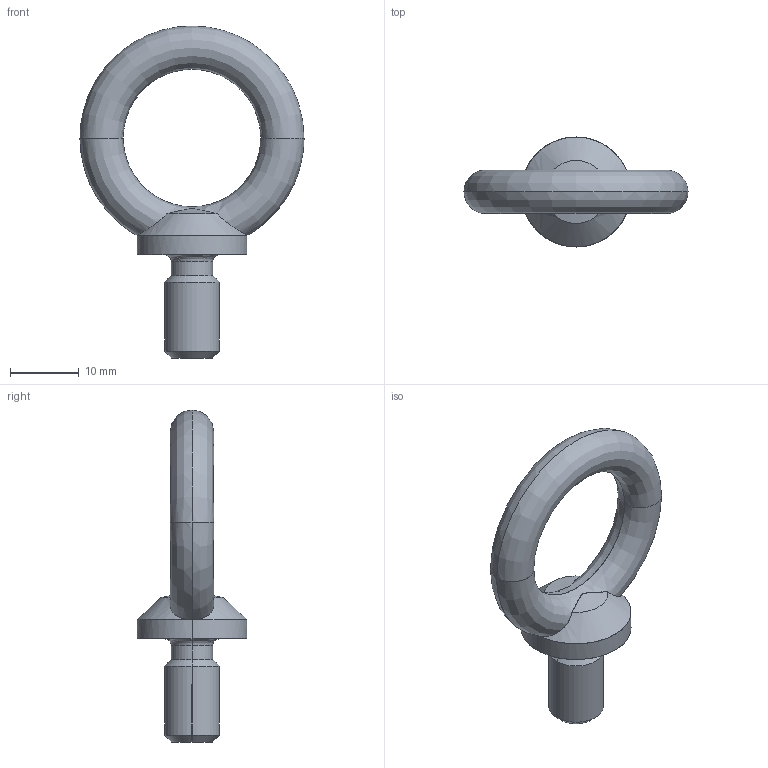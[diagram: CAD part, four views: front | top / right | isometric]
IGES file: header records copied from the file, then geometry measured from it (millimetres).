
Global section: file name: E:\UnigraphicsGraphicData\MISUMI_PRESS-PARTS\IGES\3d_chi8_03534_r00.igs; native system: NX V5.0; preprocessor: UGS NX IGES V5.0; author: MISUMI; date: 20110105.160219; units: millimetre
Bounding box: 32.6 x 16 x 48.29 mm (x, y, z)
Surface area: 2316.3 mm2 (no closed solid volume)
Topology: 0 solids, 0 shells, 22 faces, 128 edges, 128 vertices
Faces by surface type: bspline 22
